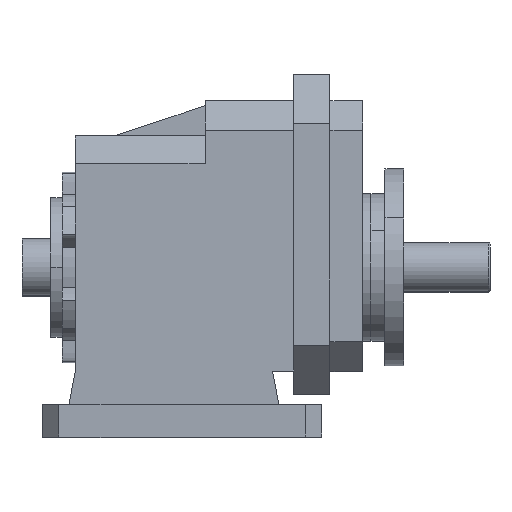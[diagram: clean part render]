
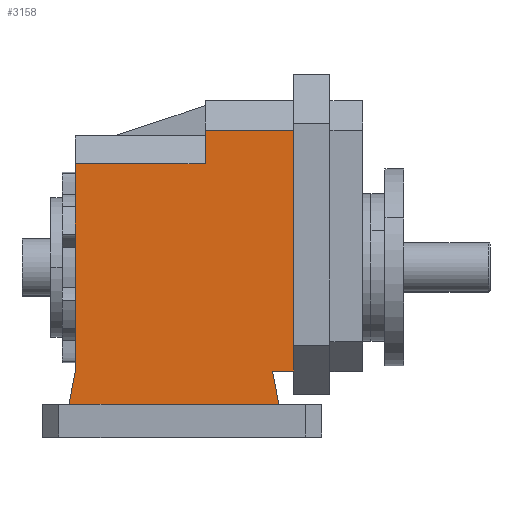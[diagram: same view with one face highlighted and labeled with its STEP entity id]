
A CAD part, top view. The second image highlights one B-rep face of the part: STEP entity #3158.
In plain terms, the highlighted planar face has unit normal (0, 0, 1).
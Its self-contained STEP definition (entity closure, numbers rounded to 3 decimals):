
#66 = EDGE_CURVE ( 'NONE', #5886, #7647, #7359, .T. ) ;
#99 = CARTESIAN_POINT ( 'NONE',  ( 0., 0., 113. ) ) ;
#107 = DIRECTION ( 'NONE',  ( 0., 0., -1. ) ) ;
#384 = ORIENTED_EDGE ( 'NONE', *, *, #979, .T. ) ;
#451 = CARTESIAN_POINT ( 'NONE',  ( 100.743, 20., 113. ) ) ;
#537 = CARTESIAN_POINT ( 'NONE',  ( -23.257, 0., 113. ) ) ;
#547 = ORIENTED_EDGE ( 'NONE', *, *, #4517, .T. ) ;
#633 = CARTESIAN_POINT ( 'NONE',  ( -39.257, 167., 113. ) ) ;
#733 = CARTESIAN_POINT ( 'NONE',  ( 104.743, 0., 113. ) ) ;
#813 = EDGE_CURVE ( 'NONE', #6108, #6516, #4010, .T. ) ;
#814 = CARTESIAN_POINT ( 'NONE',  ( 113.743, 0., 113. ) ) ;
#904 = LINE ( 'NONE', #451, #2481 ) ;
#914 = LINE ( 'NONE', #814, #5325 ) ;
#979 = EDGE_CURVE ( 'NONE', #3247, #1285, #7566, .T. ) ;
#1006 = VECTOR ( 'NONE', #3672, 1000. ) ;
#1229 = VECTOR ( 'NONE', #3367, 1000. ) ;
#1270 = VERTEX_POINT ( 'NONE', #5683 ) ;
#1285 = VERTEX_POINT ( 'NONE', #1956 ) ;
#1412 = DIRECTION ( 'NONE',  ( 0., -1., 0. ) ) ;
#1499 = CARTESIAN_POINT ( 'NONE',  ( 59.743, 195.5, 113. ) ) ;
#1539 = EDGE_CURVE ( 'NONE', #1270, #5907, #5836, .T. ) ;
#1689 = DIRECTION ( 'NONE',  ( 0., 1., 0. ) ) ;
#1759 = CARTESIAN_POINT ( 'NONE',  ( 100.743, 20., 113. ) ) ;
#1956 = CARTESIAN_POINT ( 'NONE',  ( -19.257, 146.5, 113. ) ) ;
#2017 = CARTESIAN_POINT ( 'NONE',  ( 113.743, 21., 113. ) ) ;
#2196 = ORIENTED_EDGE ( 'NONE', *, *, #1539, .F. ) ;
#2198 = VECTOR ( 'NONE', #1689, 1000. ) ;
#2279 = CARTESIAN_POINT ( 'NONE',  ( -19.257, 20., 113. ) ) ;
#2319 = DIRECTION ( 'NONE',  ( 0., -1., 0. ) ) ;
#2330 = DIRECTION ( 'NONE',  ( -0.196, -0.981, 0. ) ) ;
#2370 = VECTOR ( 'NONE', #4226, 1000. ) ;
#2397 = LINE ( 'NONE', #99, #1006 ) ;
#2479 = PLANE ( 'NONE',  #6660 ) ;
#2481 = VECTOR ( 'NONE', #4063, 1000. ) ;
#2563 = LINE ( 'NONE', #4132, #6937 ) ;
#2619 = ORIENTED_EDGE ( 'NONE', *, *, #4349, .T. ) ;
#2676 = CARTESIAN_POINT ( 'NONE',  ( -19.257, 20., 113. ) ) ;
#2824 = VECTOR ( 'NONE', #2330, 1000. ) ;
#3158 = ADVANCED_FACE ( 'NONE', ( #6273 ), #2479, .F. ) ;
#3181 = ORIENTED_EDGE ( 'NONE', *, *, #7639, .T. ) ;
#3247 = VERTEX_POINT ( 'NONE', #4995 ) ;
#3367 = DIRECTION ( 'NONE',  ( -1., 0., 0. ) ) ;
#3559 = CARTESIAN_POINT ( 'NONE',  ( 59.743, 146.5, 113. ) ) ;
#3630 = VERTEX_POINT ( 'NONE', #2017 ) ;
#3672 = DIRECTION ( 'NONE',  ( 1., 0., 0. ) ) ;
#3719 = EDGE_LOOP ( 'NONE', ( #547, #384, #3181, #5975, #2619, #6109, #7491, #4171, #5568, #2196 ) ) ;
#4010 = LINE ( 'NONE', #1759, #2370 ) ;
#4063 = DIRECTION ( 'NONE',  ( 1., 0., 0. ) ) ;
#4132 = CARTESIAN_POINT ( 'NONE',  ( -19.257, 163.5, 113. ) ) ;
#4171 = ORIENTED_EDGE ( 'NONE', *, *, #7676, .T. ) ;
#4226 = DIRECTION ( 'NONE',  ( 0.196, -0.981, 0. ) ) ;
#4259 = VECTOR ( 'NONE', #6390, 1000. ) ;
#4307 = DIRECTION ( 'NONE',  ( -1., 0., 0. ) ) ;
#4349 = EDGE_CURVE ( 'NONE', #7647, #6516, #2397, .T. ) ;
#4396 = VERTEX_POINT ( 'NONE', #6710 ) ;
#4445 = CARTESIAN_POINT ( 'NONE',  ( 100.743, 20., 113. ) ) ;
#4517 = EDGE_CURVE ( 'NONE', #1270, #3247, #7431, .T. ) ;
#4887 = CARTESIAN_POINT ( 'NONE',  ( 0., 0., 113. ) ) ;
#4995 = CARTESIAN_POINT ( 'NONE',  ( 59.743, 146.5, 113. ) ) ;
#5075 = EDGE_CURVE ( 'NONE', #5907, #3630, #914, .T. ) ;
#5325 = VECTOR ( 'NONE', #1412, 1000. ) ;
#5488 = EDGE_CURVE ( 'NONE', #6108, #4396, #904, .T. ) ;
#5568 = ORIENTED_EDGE ( 'NONE', *, *, #5075, .F. ) ;
#5683 = CARTESIAN_POINT ( 'NONE',  ( 59.743, 167., 113. ) ) ;
#5836 = LINE ( 'NONE', #633, #4259 ) ;
#5886 = VERTEX_POINT ( 'NONE', #2676 ) ;
#5907 = VERTEX_POINT ( 'NONE', #7417 ) ;
#5937 = CARTESIAN_POINT ( 'NONE',  ( 113.743, 0., 113. ) ) ;
#5975 = ORIENTED_EDGE ( 'NONE', *, *, #66, .T. ) ;
#6045 = VECTOR ( 'NONE', #6842, 1000. ) ;
#6108 = VERTEX_POINT ( 'NONE', #4445 ) ;
#6109 = ORIENTED_EDGE ( 'NONE', *, *, #813, .F. ) ;
#6273 = FACE_OUTER_BOUND ( 'NONE', #3719, .T. ) ;
#6390 = DIRECTION ( 'NONE',  ( 1., 0., 0. ) ) ;
#6516 = VERTEX_POINT ( 'NONE', #733 ) ;
#6660 = AXIS2_PLACEMENT_3D ( 'NONE', #4887, #107, #4307 ) ;
#6710 = CARTESIAN_POINT ( 'NONE',  ( 113.743, 20., 113. ) ) ;
#6746 = LINE ( 'NONE', #5937, #2198 ) ;
#6842 = DIRECTION ( 'NONE',  ( 0., -1., 0. ) ) ;
#6937 = VECTOR ( 'NONE', #2319, 1000. ) ;
#7359 = LINE ( 'NONE', #2279, #2824 ) ;
#7417 = CARTESIAN_POINT ( 'NONE',  ( 113.743, 167., 113. ) ) ;
#7431 = LINE ( 'NONE', #1499, #6045 ) ;
#7491 = ORIENTED_EDGE ( 'NONE', *, *, #5488, .T. ) ;
#7566 = LINE ( 'NONE', #3559, #1229 ) ;
#7639 = EDGE_CURVE ( 'NONE', #1285, #5886, #2563, .T. ) ;
#7647 = VERTEX_POINT ( 'NONE', #537 ) ;
#7676 = EDGE_CURVE ( 'NONE', #4396, #3630, #6746, .T. ) ;
